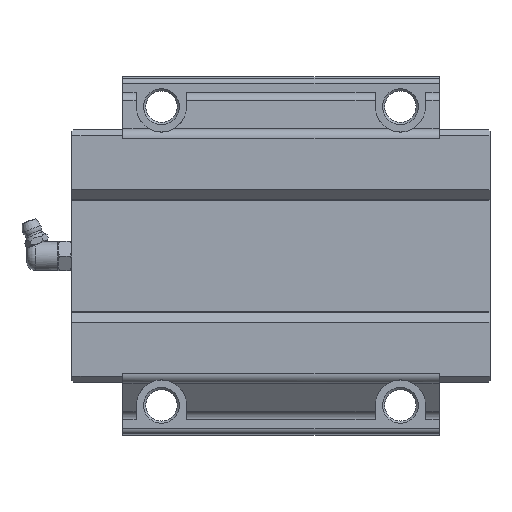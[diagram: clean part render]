
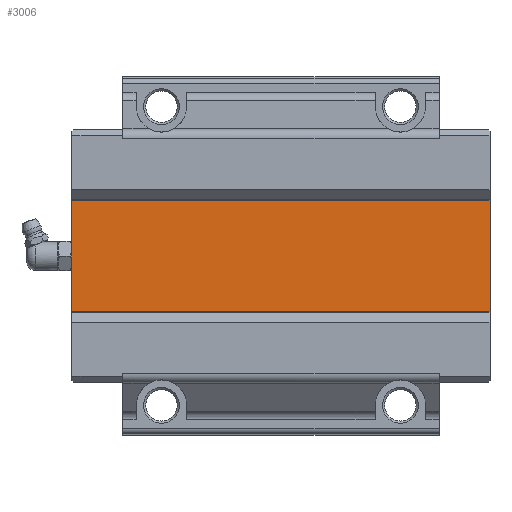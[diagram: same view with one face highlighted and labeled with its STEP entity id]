
A CAD part, front view. The second image highlights one B-rep face of the part: STEP entity #3006.
In plain terms, the highlighted planar face has unit normal (0, -1, 0).
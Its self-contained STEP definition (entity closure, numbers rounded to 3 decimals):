
#67=LINE('',#4514,#323);
#111=LINE('',#4638,#367);
#288=LINE('',#5227,#544);
#289=LINE('',#5229,#545);
#323=VECTOR('',#3504,1000.);
#367=VECTOR('',#3600,1000.);
#544=VECTOR('',#4129,1000.);
#545=VECTOR('',#4132,1000.);
#636=PLANE('',#3318);
#1589=ORIENTED_EDGE('',*,*,#1797,.F.);
#1590=ORIENTED_EDGE('',*,*,#2056,.F.);
#1591=ORIENTED_EDGE('',*,*,#1734,.T.);
#1592=ORIENTED_EDGE('',*,*,#2057,.T.);
#1734=EDGE_CURVE('',#2136,#2135,#67,.T.);
#1797=EDGE_CURVE('',#2189,#2190,#111,.T.);
#2056=EDGE_CURVE('',#2136,#2189,#288,.T.);
#2057=EDGE_CURVE('',#2135,#2190,#289,.T.);
#2135=VERTEX_POINT('',#4513);
#2136=VERTEX_POINT('',#4515);
#2189=VERTEX_POINT('',#4637);
#2190=VERTEX_POINT('',#4639);
#2586=EDGE_LOOP('',(#1589,#1590,#1591,#1592));
#2805=FACE_BOUND('',#2586,.T.);
#3006=ADVANCED_FACE('',(#2805),#636,.T.);
#3318=AXIS2_PLACEMENT_3D('',#5228,#4130,#4131);
#3504=DIRECTION('',(0.,0.,1.));
#3600=DIRECTION('',(0.,0.,1.));
#4129=DIRECTION('',(-1.,0.,0.));
#4130=DIRECTION('',(0.,-1.,0.));
#4131=DIRECTION('',(0.,0.,-1.));
#4132=DIRECTION('',(-1.,0.,0.));
#4513=CARTESIAN_POINT('',(70.,23.1,19.191));
#4514=CARTESIAN_POINT('',(70.,23.1,-19.191));
#4515=CARTESIAN_POINT('',(70.,23.1,-19.191));
#4637=CARTESIAN_POINT('',(-70.,23.1,-19.191));
#4638=CARTESIAN_POINT('',(-70.,23.1,-19.191));
#4639=CARTESIAN_POINT('',(-70.,23.1,19.191));
#5227=CARTESIAN_POINT('',(70.,23.1,-19.191));
#5228=CARTESIAN_POINT('',(70.,23.1,-19.191));
#5229=CARTESIAN_POINT('',(70.,23.1,19.191));
